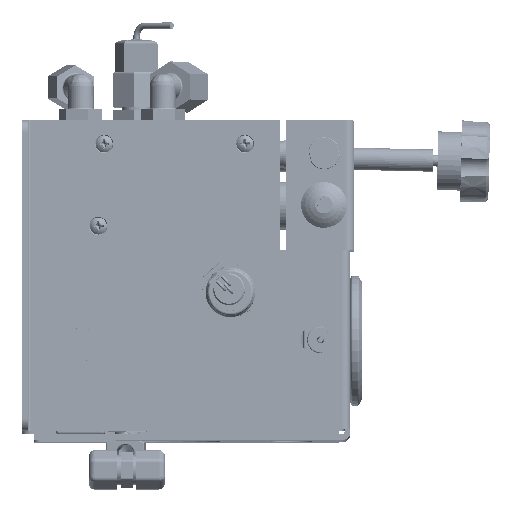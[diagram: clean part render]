
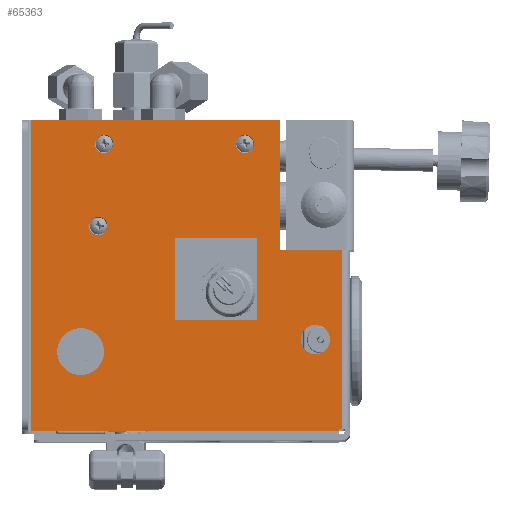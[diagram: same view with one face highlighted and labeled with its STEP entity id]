
A CAD part, top view. The second image highlights one B-rep face of the part: STEP entity #65363.
In plain terms, the highlighted planar face has unit normal (0, 0.006, 1).
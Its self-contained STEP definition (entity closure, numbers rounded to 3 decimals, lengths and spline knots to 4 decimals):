
#6077=LINE($,#86580,#9704);
#6078=LINE($,#86582,#9705);
#6079=LINE($,#86584,#9706);
#6080=LINE($,#86586,#9707);
#6081=LINE($,#86588,#9708);
#6082=LINE($,#86590,#9709);
#6083=LINE($,#86592,#9710);
#6084=LINE($,#86593,#9711);
#6085=LINE($,#86596,#9712);
#6086=LINE($,#86598,#9713);
#6087=LINE($,#86600,#9714);
#6088=LINE($,#86601,#9715);
#9704=VECTOR($,#73583,3.8155);
#9705=VECTOR($,#73584,1.315);
#9706=VECTOR($,#73585,2.75);
#9707=VECTOR($,#73586,5.313);
#9708=VECTOR($,#73587,6.625);
#9709=VECTOR($,#73588,6.5655);
#9710=VECTOR($,#73589,0.0595);
#9711=VECTOR($,#73590,0.0625);
#9712=VECTOR($,#73591,1.75);
#9713=VECTOR($,#73592,1.75);
#9714=VECTOR($,#73593,1.75);
#9715=VECTOR($,#73594,1.75);
#13322=PLANE($,#68862);
#14820=FACE_BOUND($,#19247,.T.);
#14821=FACE_BOUND($,#19248,.T.);
#14822=FACE_BOUND($,#19249,.T.);
#14823=FACE_BOUND($,#19250,.T.);
#14824=FACE_BOUND($,#19251,.T.);
#14825=FACE_BOUND($,#19252,.T.);
#14826=FACE_BOUND($,#19253,.T.);
#19247=EDGE_LOOP($,(#42866));
#19248=EDGE_LOOP($,(#42867,#42868,#42869,#42870,#42871,#42872,#42873,#42874));
#19249=EDGE_LOOP($,(#42875,#42876,#42877,#42878));
#19250=EDGE_LOOP($,(#42879));
#19251=EDGE_LOOP($,(#42880));
#19252=EDGE_LOOP($,(#42881));
#19253=EDGE_LOOP($,(#42882));
#23660=CIRCLE($,#68861,0.195);
#23661=CIRCLE($,#68863,0.195);
#23662=CIRCLE($,#68864,0.3125);
#23663=CIRCLE($,#68865,0.5);
#23664=CIRCLE($,#68866,0.195);
#25505=VERTEX_POINT($,#86573);
#25506=VERTEX_POINT($,#86576);
#25507=VERTEX_POINT($,#86578);
#25508=VERTEX_POINT($,#86579);
#25509=VERTEX_POINT($,#86581);
#25510=VERTEX_POINT($,#86583);
#25511=VERTEX_POINT($,#86585);
#25512=VERTEX_POINT($,#86587);
#25513=VERTEX_POINT($,#86589);
#25514=VERTEX_POINT($,#86591);
#25515=VERTEX_POINT($,#86594);
#25516=VERTEX_POINT($,#86595);
#25517=VERTEX_POINT($,#86597);
#25518=VERTEX_POINT($,#86599);
#25519=VERTEX_POINT($,#86602);
#25520=VERTEX_POINT($,#86604);
#25521=VERTEX_POINT($,#86606);
#32997=EDGE_CURVE($,#25505,#25505,#23660,.T.);
#32998=EDGE_CURVE($,#25506,#25506,#23661,.T.);
#32999=EDGE_CURVE($,#25507,#25508,#6077,.T.);
#33000=EDGE_CURVE($,#25509,#25507,#6078,.T.);
#33001=EDGE_CURVE($,#25510,#25509,#6079,.T.);
#33002=EDGE_CURVE($,#25511,#25510,#6080,.T.);
#33003=EDGE_CURVE($,#25512,#25511,#6081,.T.);
#33004=EDGE_CURVE($,#25513,#25512,#6082,.T.);
#33005=EDGE_CURVE($,#25514,#25513,#6083,.T.);
#33006=EDGE_CURVE($,#25508,#25514,#6084,.T.);
#33007=EDGE_CURVE($,#25515,#25516,#6085,.T.);
#33008=EDGE_CURVE($,#25516,#25517,#6086,.T.);
#33009=EDGE_CURVE($,#25517,#25518,#6087,.T.);
#33010=EDGE_CURVE($,#25518,#25515,#6088,.T.);
#33011=EDGE_CURVE($,#25519,#25519,#23662,.T.);
#33012=EDGE_CURVE($,#25520,#25520,#23663,.T.);
#33013=EDGE_CURVE($,#25521,#25521,#23664,.T.);
#42866=ORIENTED_EDGE($,*,*,#32998,.F.);
#42867=ORIENTED_EDGE($,*,*,#32999,.F.);
#42868=ORIENTED_EDGE($,*,*,#33000,.F.);
#42869=ORIENTED_EDGE($,*,*,#33001,.F.);
#42870=ORIENTED_EDGE($,*,*,#33002,.F.);
#42871=ORIENTED_EDGE($,*,*,#33003,.F.);
#42872=ORIENTED_EDGE($,*,*,#33004,.F.);
#42873=ORIENTED_EDGE($,*,*,#33005,.F.);
#42874=ORIENTED_EDGE($,*,*,#33006,.F.);
#42875=ORIENTED_EDGE($,*,*,#33007,.T.);
#42876=ORIENTED_EDGE($,*,*,#33008,.T.);
#42877=ORIENTED_EDGE($,*,*,#33009,.T.);
#42878=ORIENTED_EDGE($,*,*,#33010,.T.);
#42879=ORIENTED_EDGE($,*,*,#33011,.T.);
#42880=ORIENTED_EDGE($,*,*,#33012,.T.);
#42881=ORIENTED_EDGE($,*,*,#33013,.F.);
#42882=ORIENTED_EDGE($,*,*,#32997,.F.);
#65363=ADVANCED_FACE($,(#14820,#14821,#14822,#14823,#14824,#14825,#14826),
#13322,.T.);
#68861=AXIS2_PLACEMENT_3D($,#86574,#73577,#73578);
#68862=AXIS2_PLACEMENT_3D($,#86575,#73579,#73580);
#68863=AXIS2_PLACEMENT_3D($,#86577,#73581,#73582);
#68864=AXIS2_PLACEMENT_3D($,#86603,#73595,#73596);
#68865=AXIS2_PLACEMENT_3D($,#86605,#73597,#73598);
#68866=AXIS2_PLACEMENT_3D($,#86607,#73599,#73600);
#73577=DIRECTION('center_axis',(0.,0.006,
1.));
#73578=DIRECTION('ref_axis',(1.,0.,0.));
#73579=DIRECTION('center_axis',(0.,0.006,
1.));
#73580=DIRECTION('ref_axis',(0.,-1.,0.006));
#73581=DIRECTION('center_axis',(0.,0.006,
1.));
#73582=DIRECTION('ref_axis',(1.,0.,0.));
#73583=DIRECTION($,(0.,-1.,0.006));
#73584=DIRECTION($,(1.,0.,0.));
#73585=DIRECTION($,(0.,-1.,0.006));
#73586=DIRECTION($,(1.,0.,0.));
#73587=DIRECTION($,(0.,1.,-0.006));
#73588=DIRECTION($,(-1.,0.,0.));
#73589=DIRECTION($,(0.,-1.,0.006));
#73590=DIRECTION($,(-1.,0.,0.));
#73591=DIRECTION($,(0.,-1.,0.006));
#73592=DIRECTION($,(-1.,0.,0.));
#73593=DIRECTION($,(0.,1.,-0.006));
#73594=DIRECTION($,(1.,0.,0.));
#73595=DIRECTION('center_axis',(0.,-0.006,
-1.));
#73596=DIRECTION('ref_axis',(-1.,0.,0.));
#73597=DIRECTION('center_axis',(0.,-0.006,
-1.));
#73598=DIRECTION('ref_axis',(-1.,0.,0.));
#73599=DIRECTION('center_axis',(0.,0.006,
1.));
#73600=DIRECTION('ref_axis',(1.,0.,0.));
#86573=CARTESIAN_POINT('',(2.5749,17.2332,9.481));
#86574=CARTESIAN_POINT('Origin',(2.7699,17.2332,9.481));
#86575=CARTESIAN_POINT('Origin',(1.4291,14.2685,9.4979));
#86576=CARTESIAN_POINT('',(-0.4251,17.2332,9.481));
#86577=CARTESIAN_POINT('Origin',(-0.2301,17.2332,9.481));
#86578=CARTESIAN_POINT('',(4.8349,14.9832,9.4938));
#86579=CARTESIAN_POINT('',(4.8349,11.1678,9.5156));
#86580=CARTESIAN_POINT($,(4.8349,12.6884,9.5069));
#86581=CARTESIAN_POINT('',(3.5199,14.9832,9.4938));
#86582=CARTESIAN_POINT($,(3.132,14.9832,9.4938));
#86583=CARTESIAN_POINT('',(3.5199,17.7332,9.4781));
#86584=CARTESIAN_POINT($,(3.5199,14.6259,9.4959));
#86585=CARTESIAN_POINT('',(-1.7931,17.7332,9.4781));
#86586=CARTESIAN_POINT($,(-0.1505,17.7332,9.4781));
#86587=CARTESIAN_POINT('',(-1.7931,11.1083,9.516));
#86588=CARTESIAN_POINT($,(-1.7931,12.6884,9.5069));
#86589=CARTESIAN_POINT('',(4.7724,11.1083,9.516));
#86590=CARTESIAN_POINT($,(-0.1505,11.1083,9.516));
#86591=CARTESIAN_POINT('',(4.7724,11.1678,9.5156));
#86592=CARTESIAN_POINT($,(4.7724,12.6884,9.5069));
#86593=CARTESIAN_POINT($,(3.132,11.1678,9.5156));
#86594=CARTESIAN_POINT('',(3.0199,15.2332,9.4924));
#86595=CARTESIAN_POINT('',(3.0199,13.4833,9.5024));
#86596=CARTESIAN_POINT($,(3.0199,13.8759,9.5002));
#86597=CARTESIAN_POINT('',(1.2699,13.4833,9.5024));
#86598=CARTESIAN_POINT($,(1.3495,13.4833,9.5024));
#86599=CARTESIAN_POINT('',(1.2699,15.2332,9.4924));
#86600=CARTESIAN_POINT($,(1.2699,14.7509,9.4952));
#86601=CARTESIAN_POINT($,(2.2245,15.2332,9.4924));
#86602=CARTESIAN_POINT('',(3.9574,13.0653,9.5048));
#86603=CARTESIAN_POINT('Origin',(4.2699,13.0653,9.5048));
#86604=CARTESIAN_POINT('',(-1.2301,12.8083,9.5063));
#86605=CARTESIAN_POINT('Origin',(-0.7301,12.8083,9.5063));
#86606=CARTESIAN_POINT('',(-0.5501,15.4832,9.491));
#86607=CARTESIAN_POINT('Origin',(-0.3551,15.4832,9.491));
